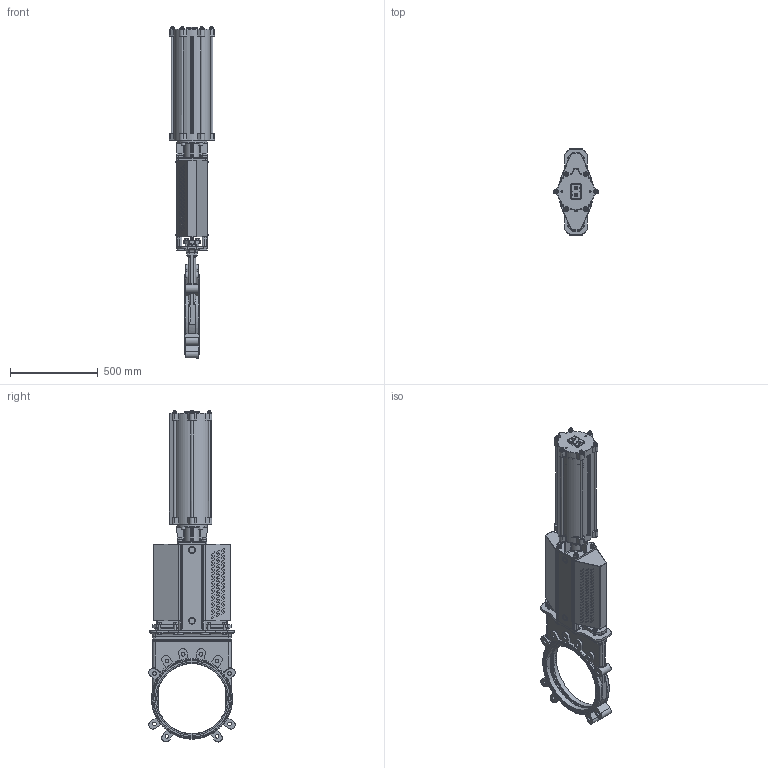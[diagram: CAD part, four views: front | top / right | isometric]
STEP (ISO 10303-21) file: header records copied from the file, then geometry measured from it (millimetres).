
FILE_DESCRIPTION(/* description */ (''),/* implementation_level */ '2;1');
FILE_NAME(/* name */ 'F:\Emir\3D-block special\WB\WBA-DN400-PN10-FRSC200-454M.stp',/* time_stamp */ '2018-02-26T12:50:11+01:00',/* author */ ('emimus'),/* organization */ (''),/* preprocessor_version */ 'ST-DEVELOPER v17',/* originating_system */ 'Autodesk Inventor 2018',/* authorisation */ '');
FILE_SCHEMA (('CONFIG_CONTROL_DESIGN'));
Products named in the file (1): WBA-DN400-PN10-FRSC200-454M_Shrinkwrap_1
Bounding box: 256 x 491.74 x 1887.97 mm (x, y, z)
Volume: 20651374.8 mm3; surface area: 4828917.9 mm2
Topology: 1 solids, 1 shells, 3218 faces, 8218 edges, 5152 vertices
Faces by surface type: plane 1215, cylinder 986, bspline 343, torus 283, cone 247, sphere 144
Full cylindrical faces by diameter (mm): 4 x2, 4.2 x16, 4.3 x2, 4.5 x8, 4.917 x7, 7.5 x4, 8.376 x4, 9.5 x2, 10 x9, 10.106 x10, 12 x20, 13 x22, 14 x4, 16 x12, 17 x4, 18 x3, 18.631 x2, 21 x16, 24 x23, 25 x4, 28 x4, 30 x4, 33 x1, 33.835 x1, 36 x2, 38 x4, 40 x1, 40.1 x1, 40.2 x2, 44 x2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
Entity records: 115239 total; most frequent: CARTESIAN_POINT 37309, DIRECTION 16515, ORIENTED_EDGE 16366, EDGE_CURVE 8183, AXIS2_PLACEMENT_3D 6559, VERTEX_POINT 5152, EDGE_LOOP 3725, CIRCLE 3452
